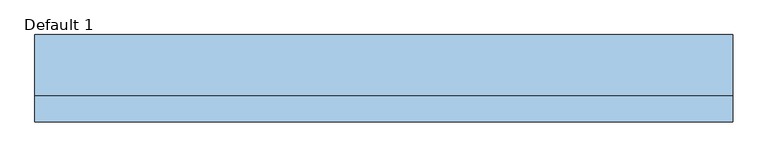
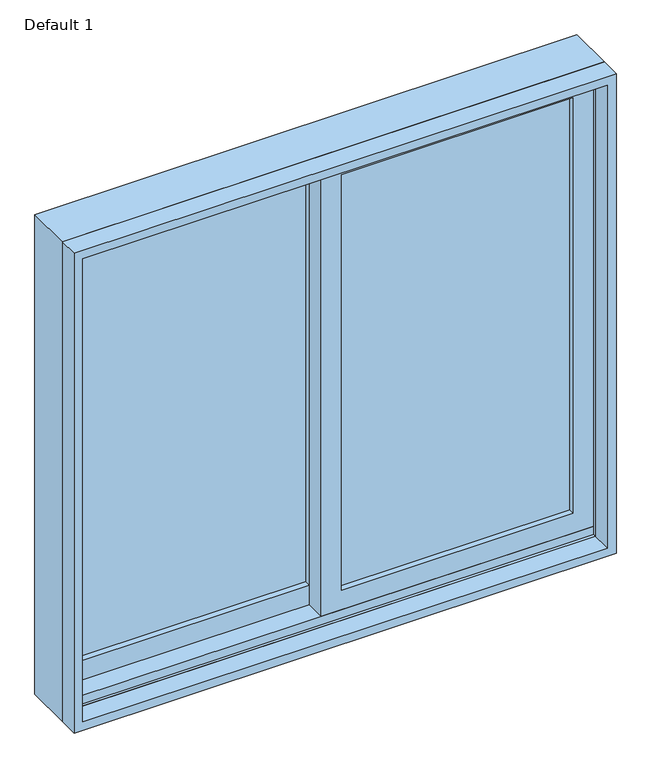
"""IFC4 building model written with IfcOpenShell, lengths in millimetres: window geometry, Planitar-Sliding-Double : Default 1."""

from ifc_helpers import new_model, si_unit, frame, origin, place, context, project, spatial, polyline, outline, extrude, faceted_brep, source, transform, mapped, element, save


def default_1_4f1888e7(model_context):
    return source(origin(), model_context, "Body", "SolidModel", [
        extrude(outline(polyline([(933.45, -565.15), (933.45, 22.225), (1987.55, 22.225), (1987.55, -565.15), (933.45, -565.15)]), holes=[polyline([(1943.1, -22.225), (996.95, -22.225), (996.95, -520.7), (1943.1, -520.7), (1943.1, -22.225)])]), frame((0.0, 27.94, 0.0), z_axis=(0.0, 1.0, 0.0), x_axis=(0.0, 0.0, 1.0)), (0.0, 0.0, 1.0), 44.45),
        extrude(outline(polyline([(952.5, 565.15), (1987.55, 565.15), (1987.55, -22.225), (952.5, -22.225), (952.5, 565.15)]), holes=[polyline([(996.95, 22.225), (1943.1, 22.225), (1943.1, 520.7), (996.95, 520.7), (996.95, 22.225)])]), frame((0.0, -16.51, 0.0), z_axis=(0.0, 1.0, 0.0), x_axis=(0.0, 0.0, 1.0)), (0.0, 0.0, 1.0), 44.45),
        faceted_brep([(-584.2, -22.86, 914.4), (-584.2, 78.74, 914.4), (584.2, 78.74, 914.4), (584.2, -22.86, 914.4), (-543.2778905, 78.74, 1965.6778905), (-543.2778905, 72.39, 1965.6778905), (-543.2778905, 72.39, 933.45), (-543.2778905, 78.74, 933.45), (543.2778905, 72.39, 1965.6778905), (543.2778905, 72.39, 933.45), (565.15, 72.39, 933.45), (565.15, 72.39, 1987.55), (-565.15, 72.39, 1987.55), (-565.15, 72.39, 933.45), (-565.15, -22.86, 1987.55), (-565.15, -22.86, 933.45), (-565.15, -16.51, 933.45), (-565.15, -16.51, 952.5), (-565.15, 27.94, 952.5), (-565.15, 27.94, 933.45), (584.2, -22.86, 2006.6), (-584.2, -22.86, 2006.6), (565.15, -22.86, 1987.55), (565.15, -22.86, 933.45), (-584.2, 78.74, 2006.6), (584.2, 78.74, 2006.6), (543.2778905, 78.74, 933.45), (543.2778905, 78.74, 1965.6778905), (565.15, 27.94, 933.45), (565.15, 27.94, 952.5), (565.15, -16.51, 952.5), (565.15, -16.51, 933.45)], [[[0, 1, 2, 3]], [[4, 5, 6, 7]], [[5, 8, 9, 10, 11, 12, 13, 6]], [[12, 14, 15, 16, 17, 18, 19, 13]], [[0, 3, 20, 21], [22, 23, 15, 14]], [[24, 1, 0, 21]], [[2, 1, 24, 25], [4, 7, 26, 27]], [[5, 4, 27, 8]], [[12, 11, 22, 14]], [[21, 20, 25, 24]], [[8, 27, 26, 9]], [[22, 11, 10, 28, 29, 30, 31, 23]], [[20, 3, 2, 25]], [[26, 7, 6, 13, 19, 28, 10, 9]], [[28, 19, 18, 29]], [[29, 18, 17, 30]], [[30, 17, 16, 31]], [[15, 23, 31, 16]]]),
        extrude(outline(polyline([(2006.6, -584.2), (914.4, -584.2), (914.4, 584.2), (2006.6, 584.2), (2006.6, -584.2)]), holes=[polyline([(1987.55, 565.15), (933.45, 565.15), (933.45, -565.15), (1987.55, -565.15), (1987.55, 565.15)])]), frame((0.0, -67.31, 0.0), z_axis=(0.0, 1.0, 0.0), x_axis=(0.0, 0.0, 1.0)), (0.0, 0.0, 1.0), 44.45),
        extrude(outline(polyline([(520.7, 15.24), (520.7, 8.89), (22.225, 8.89), (22.225, 15.24), (520.7, 15.24)])), frame((0.0, 0.0, 996.95), z_axis=(0.0, 0.0, 1.0), x_axis=(1.0, 0.0, 0.0)), (0.0, 0.0, 1.0), 946.15),
        extrude(outline(polyline([(520.7, 2.54), (520.7, -3.81), (22.225, -3.81), (22.225, 2.54), (520.7, 2.54)])), frame((0.0, 0.0, 996.95), z_axis=(0.0, 0.0, 1.0), x_axis=(1.0, 0.0, 0.0)), (0.0, 0.0, 1.0), 946.15),
        extrude(outline(polyline([(-22.225, 59.69), (-22.225, 53.34), (-520.7, 53.34), (-520.7, 59.69), (-22.225, 59.69)])), frame((0.0, 0.0, 996.95), z_axis=(0.0, 0.0, 1.0), x_axis=(1.0, 0.0, 0.0)), (0.0, 0.0, 1.0), 946.15),
        extrude(outline(polyline([(-22.225, 46.99), (-22.225, 40.64), (-520.7, 40.64), (-520.7, 46.99), (-22.225, 46.99)])), frame((0.0, 0.0, 996.95), z_axis=(0.0, 0.0, 1.0), x_axis=(1.0, 0.0, 0.0)), (0.0, 0.0, 1.0), 946.15),
    ])


if __name__ == "__main__":
    model = new_model("IFC4")
    model_context = context("Model", 3, world=origin())
    ifc_project = project(units=[si_unit("LENGTHUNIT", "METRE", prefix="MILLI")], contexts=[model_context])
    site = spatial("IfcSite", under=ifc_project)
    building = spatial("IfcBuilding", under=site)
    placement = place(None, origin())
    default_1_shape = default_1_4f1888e7(model_context)
    element("IfcWindow", 1, ObjectType="Planitar-Sliding-Double : Default 1", at=placement, inside=building, context=model_context, shape_type="MappedRepresentation", body=[
        mapped(default_1_shape, transform((0.0, 0.0, 0.0), x_axis=(1.0, 0.0, 0.0), y_axis=(0.0, 1.0, 0.0), z_axis=(0.0, 0.0, 1.0))),
    ])
    save(model, "model.ifc")
